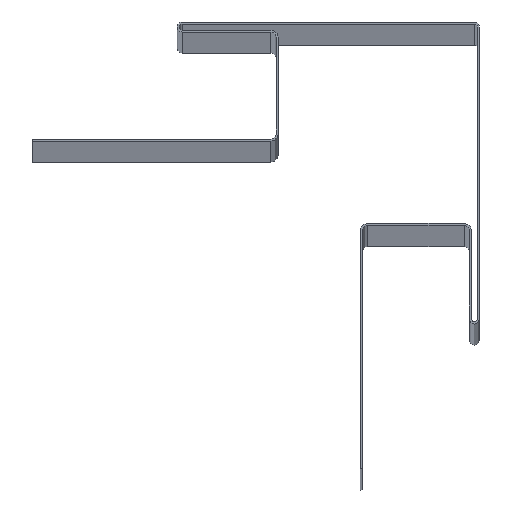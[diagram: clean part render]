
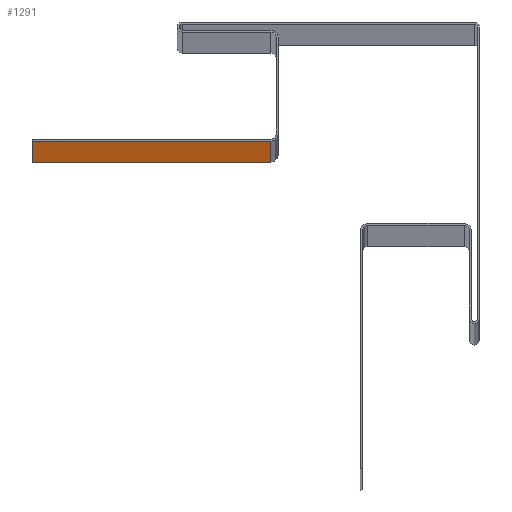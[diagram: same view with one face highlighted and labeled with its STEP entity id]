
A CAD part, top view. The second image highlights one B-rep face of the part: STEP entity #1291.
In plain terms, the highlighted planar face has unit normal (0, -1, 0).
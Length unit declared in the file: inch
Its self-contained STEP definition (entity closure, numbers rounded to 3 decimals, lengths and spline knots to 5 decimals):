
#97 = CARTESIAN_POINT ( 'NONE',  ( -4.4375, -1.1825, 120. ) ) ;
#106 = DIRECTION ( 'NONE',  ( 0., -1., 0. ) ) ;
#126 = VERTEX_POINT ( 'NONE', #455 ) ;
#216 = CARTESIAN_POINT ( 'NONE',  ( -4.4375, -1.1825, 120. ) ) ;
#248 = CARTESIAN_POINT ( 'NONE',  ( -2.07, -1.1825, 120. ) ) ;
#256 = VECTOR ( 'NONE', #1102, 39.37008 ) ;
#258 = CARTESIAN_POINT ( 'NONE',  ( -2.07, -1.1825, 120. ) ) ;
#316 = VECTOR ( 'NONE', #1132, 39.37008 ) ;
#319 = DIRECTION ( 'NONE',  ( 0., 0., -1. ) ) ;
#373 = CARTESIAN_POINT ( 'NONE',  ( -2.07, -1.1825, 120. ) ) ;
#389 = DIRECTION ( 'NONE',  ( 0., 0., -1. ) ) ;
#404 = LINE ( 'NONE', #97, #783 ) ;
#455 = CARTESIAN_POINT ( 'NONE',  ( -2.07, -1.1825, 120. ) ) ;
#463 = EDGE_CURVE ( 'NONE', #656, #778, #1138, .T. ) ;
#464 = EDGE_CURVE ( 'NONE', #1292, #778, #404, .T. ) ;
#492 = LINE ( 'NONE', #248, #256 ) ;
#570 = PLANE ( 'NONE',  #845 ) ;
#588 = ORIENTED_EDGE ( 'NONE', *, *, #896, .F. ) ;
#647 = EDGE_CURVE ( 'NONE', #126, #1292, #492, .T. ) ;
#654 = CARTESIAN_POINT ( 'NONE',  ( -2.07, -1.1825, 0. ) ) ;
#656 = VERTEX_POINT ( 'NONE', #663 ) ;
#663 = CARTESIAN_POINT ( 'NONE',  ( -2.07, -1.1825, 0. ) ) ;
#760 = ORIENTED_EDGE ( 'NONE', *, *, #647, .T. ) ;
#778 = VERTEX_POINT ( 'NONE', #1308 ) ;
#783 = VECTOR ( 'NONE', #389, 39.37008 ) ;
#817 = LINE ( 'NONE', #373, #894 ) ;
#845 = AXIS2_PLACEMENT_3D ( 'NONE', #258, #106, #1165 ) ;
#894 = VECTOR ( 'NONE', #319, 39.37008 ) ;
#896 = EDGE_CURVE ( 'NONE', #126, #656, #817, .T. ) ;
#991 = FACE_OUTER_BOUND ( 'NONE', #1114, .T. ) ;
#1088 = ORIENTED_EDGE ( 'NONE', *, *, #463, .F. ) ;
#1102 = DIRECTION ( 'NONE',  ( -1., 0., 0. ) ) ;
#1114 = EDGE_LOOP ( 'NONE', ( #1088, #588, #760, #1191 ) ) ;
#1132 = DIRECTION ( 'NONE',  ( -1., 0., 0. ) ) ;
#1138 = LINE ( 'NONE', #654, #316 ) ;
#1165 = DIRECTION ( 'NONE',  ( 0., 0., -1. ) ) ;
#1191 = ORIENTED_EDGE ( 'NONE', *, *, #464, .T. ) ;
#1291 = ADVANCED_FACE ( 'NONE', ( #991 ), #570, .T. ) ;
#1292 = VERTEX_POINT ( 'NONE', #216 ) ;
#1308 = CARTESIAN_POINT ( 'NONE',  ( -4.4375, -1.1825, 0. ) ) ;
